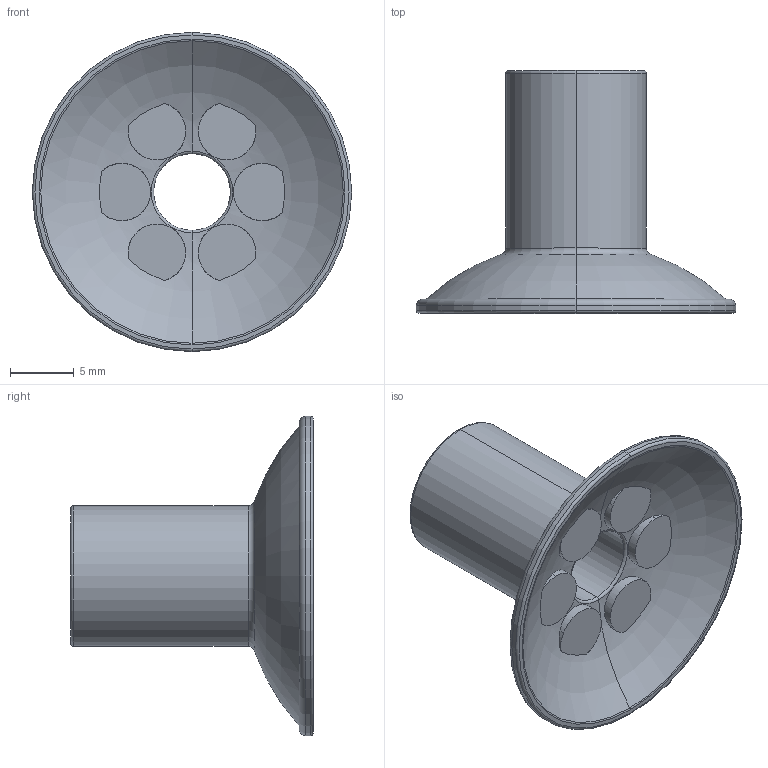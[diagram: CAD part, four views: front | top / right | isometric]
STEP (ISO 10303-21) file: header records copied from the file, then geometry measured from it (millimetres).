
FILE_DESCRIPTION (( 'STEP AP203' ), '1' );
FILE_NAME ('7_26--A.STEP', '2016-09-20T14:38:02', ( '' ), ( '' ), 'SwSTEP 2.0', 'SolidWorks 2016', '' );
FILE_SCHEMA (( 'CONFIG_CONTROL_DESIGN' ));
Length unit declared in the file: millimetre
Products named in the file (1): 7_26--A
Bounding box: 25 x 19 x 25 mm (x, y, z)
Volume: 1550.1 mm3; surface area: 1910.5 mm2
Topology: 1 solids, 1 shells, 48 faces, 102 edges, 62 vertices
Faces by surface type: cylinder 24, torus 16, plane 8
Entity records: 1635 total; most frequent: CARTESIAN_POINT 495, DIRECTION 248, ORIENTED_EDGE 204, AXIS2_PLACEMENT_3D 115, EDGE_CURVE 102, CIRCLE 66, VERTEX_POINT 62, EDGE_LOOP 56
